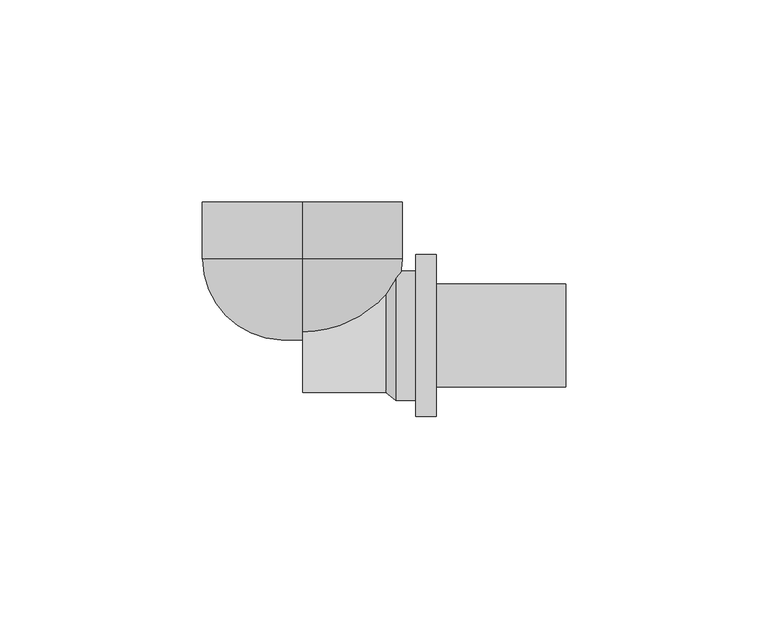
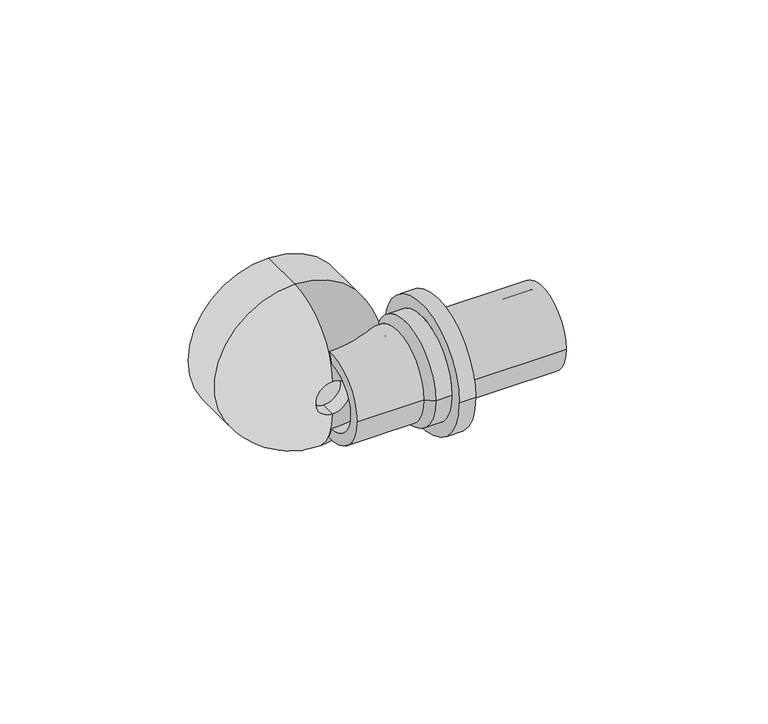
"""IFC4 building model written with IfcOpenShell, lengths in millimetres: pipe fitting geometry, REHAU_RAUTITAN_T-piece RX+, outlet with internal thread : REHAU_RAUTITAN_T-piece RX+, outlet with internal thread."""

from ifc_helpers import new_model, si_unit, point, frame, origin, place, context, project, spatial, polyline, circle_curve, ellipse_curve, trimmed, source, transform, mapped, element, save
from ifc_brep_helpers import plane_surface, cylinder_surface, revolved_surface, advanced_brep


def pipe_fitting_447a7474(model_context):
    return source(origin(), model_context, "Body", "AdvancedBrep", [
        advanced_brep(
        [(0.0, -1.0587443, 5.275), (0.0, -1.0587443, -5.275), (0.0, 18.92, -24.76), (0.0, 18.92, 24.76), (0.0, 3.7182205, 5.275), (0.0, 3.7182205, -5.275), (0.0, 18.92, 19.985), (0.0, 18.92, -19.985), (0.0, 33.0, 19.985), (0.0, 33.0, -19.985), (0.0, 33.0, -24.76), (0.0, 33.0, 24.76)],
        [
            (0, 1, circle_curve(frame((0.0, -1.0587443, 0.0), z_axis=(0.0, 1.0, 0.0), x_axis=(0.0, 0.0, -1.0)), 5.275)),
            (1, 2, circle_curve(frame((0.0, 18.92, -4.775), z_axis=(1.0, 0.0, 0.0), x_axis=(0.0, 1.0, 0.0)), 19.985)),
            (2, 3, circle_curve(frame((0.0, 18.92, 0.0), z_axis=(0.0, -1.0, 0.0), x_axis=(0.0, 0.0, -1.0)), 24.76)),
            (3, 0, circle_curve(frame((0.0, 18.92, 4.775), z_axis=(1.0, 0.0, 0.0), x_axis=(0.0, 1.0, 0.0)), 19.985)),
            (4, 5, circle_curve(frame((0.0, 3.7182205, 0.0), z_axis=(0.0, 1.0, 0.0), x_axis=(0.0, 0.0, -1.0)), 5.275)),
            (5, 1),
            (0, 4),
            (6, 7, circle_curve(frame((0.0, 18.92, 0.0), z_axis=(0.0, 1.0, 0.0), x_axis=(0.0, 0.0, -1.0)), 19.985)),
            (7, 5, circle_curve(frame((0.0, 18.92, -4.775), z_axis=(-1.0, 0.0, 0.0), x_axis=(0.0, 1.0, 0.0)), 15.21)),
            (4, 6, circle_curve(frame((0.0, 18.92, 4.775), z_axis=(-1.0, 0.0, 0.0), x_axis=(0.0, 1.0, 0.0)), 15.21)),
            (8, 9, circle_curve(frame((0.0, 33.0, 0.0), z_axis=(0.0, 1.0, 0.0), x_axis=(0.0, 0.0, -1.0)), 19.985)),
            (9, 7),
            (6, 8),
            (2, 10),
            (10, 11, circle_curve(frame((0.0, 33.0, 0.0), z_axis=(0.0, -1.0, 0.0), x_axis=(0.0, 0.0, -1.0)), 24.76)),
            (11, 3),
            (1, 0, circle_curve(frame((0.0, -1.0587443, 0.0), z_axis=(0.0, 1.0, 0.0), x_axis=(0.0, 0.0, 1.0)), 5.275)),
            (3, 2, circle_curve(frame((0.0, 18.92, 0.0), z_axis=(0.0, -1.0, 0.0), x_axis=(0.0, 0.0, 1.0)), 24.76)),
            (5, 4, circle_curve(frame((0.0, 3.7182205, 0.0), z_axis=(0.0, 1.0, 0.0), x_axis=(0.0, 0.0, 1.0)), 5.275)),
            (7, 6, circle_curve(frame((0.0, 18.92, 0.0), z_axis=(0.0, 1.0, 0.0), x_axis=(0.0, 0.0, 1.0)), 19.985)),
            (9, 8, circle_curve(frame((0.0, 33.0, 0.0), z_axis=(0.0, 1.0, 0.0), x_axis=(0.0, 0.0, 1.0)), 19.985)),
            (10, 11, circle_curve(frame((0.0, 33.0, 0.0), z_axis=(0.0, 1.0, 0.0), x_axis=(0.0, 0.0, 1.0)), 24.76)),
        ],
        [
            revolved_surface(trimmed(ellipse_curve(frame((0.0, 18.92, -4.775), z_axis=(-1.0, 0.0, 0.0), x_axis=(0.0, 1.0, 0.0)), 19.985, 19.985), [point((0.0, 18.92, -24.76))], [point((0.0, -1.0587443, -5.275))], True, "CARTESIAN"), (0.0, 0.0, 0.0), (0.0, -1.0, 0.0)),
            revolved_surface(polyline([(0.0, -1.0587443, -5.275), (0.0, 3.7182205, -5.275)]), (0.0, 0.0, 0.0), (0.0, -1.0, 0.0)),
            revolved_surface(trimmed(ellipse_curve(frame((0.0, 18.92, -4.775), z_axis=(1.0, 0.0, 0.0), x_axis=(0.0, 1.0, 0.0)), 15.21, 15.21), [point((0.0, 3.7182205, -5.275))], [point((0.0, 18.92, -19.985))], True, "CARTESIAN"), (0.0, 0.0, 0.0), (0.0, -1.0, 0.0)),
            revolved_surface(polyline([(0.0, 18.92, -19.985), (0.0, 33.0, -19.985)]), (0.0, 0.0, 0.0), (0.0, -1.0, 0.0)),
            cylinder_surface(frame((0.0, 0.0, 0.0), z_axis=(0.0, -1.0, 0.0), x_axis=(0.0, 0.0, -1.0)), 24.76),
            revolved_surface(trimmed(ellipse_curve(frame((0.0, 18.92, 4.775), z_axis=(1.0, 0.0, 0.0), x_axis=(0.0, 1.0, 0.0)), 19.985, 19.985), [point((0.0, 18.92, 24.76))], [point((0.0, -1.0587443, 5.275))], True, "CARTESIAN"), (0.0, 0.0, 0.0), (0.0, -1.0, 0.0)),
            revolved_surface(polyline([(0.0, -1.0587443, 5.275), (0.0, 3.7182205, 5.275)]), (0.0, 0.0, 0.0), (0.0, -1.0, 0.0)),
            revolved_surface(trimmed(ellipse_curve(frame((0.0, 18.92, 4.775), z_axis=(-1.0, 0.0, 0.0), x_axis=(0.0, 1.0, 0.0)), 15.21, 15.21), [point((0.0, 3.7182205, 5.275))], [point((0.0, 18.92, 19.985))], True, "CARTESIAN"), (0.0, 0.0, 0.0), (0.0, -1.0, 0.0)),
            revolved_surface(polyline([(0.0, 18.92, 19.985), (0.0, 33.0, 19.985)]), (0.0, 0.0, 0.0), (0.0, -1.0, 0.0)),
            plane_surface(frame((0.0, 33.0, 0.0), z_axis=(0.0, 1.0, 0.0), x_axis=(0.0, 0.0, 1.0))),
            cylinder_surface(frame((0.0, 0.0, 0.0), z_axis=(0.0, -1.0, 0.0), x_axis=(0.0, 0.0, 1.0)), 24.76),
        ],
        [
            (0, [[1, 2, 3, 4]]),
            (1, [[5, 6, -1, 7]]),
            (2, [[8, 9, -5, 10]]),
            (3, [[11, 12, -8, 13]]),
            (4, [[-3, 14, 15, 16]]),
            (5, [[17, -4, 18, -2]]),
            (6, [[19, -7, -17, -6]]),
            (7, [[20, -10, -19, -9]]),
            (8, [[21, -13, -20, -12]]),
            (9, [[22, -15], [-21, -11]]),
            (10, [[-18, -16, -22, -14]]),
        ],
    ),
        advanced_brep(
        [(23.0, 10.0, 0.0), (23.0, -10.0, 0.0), (65.0, -10.0, 0.0), (65.0, 10.0, 0.0), (20.5, 10.5, 0.0), (20.5, -10.5, 0.0), (0.0, 10.5, 0.0), (0.0, -10.5, 0.0), (20.5, 14.005, 0.0), (20.5, -14.005, 0.0), (0.0, -14.005, 0.0), (0.0, 14.005, 0.0), (23.0, 16.0, 0.0), (23.0, -16.0, 0.0), (28.0, 16.0, 0.0), (28.0, -16.0, 0.0), (33.0, 20.0, 0.0), (33.0, -20.0, 0.0), (28.0, -20.0, 0.0), (28.0, 20.0, 0.0), (65.0, 12.725, 0.0), (65.0, -12.725, 0.0), (33.0, -12.725, 0.0), (33.0, 12.725, 0.0)],
        [
            (0, 1, circle_curve(frame((23.0, 0.0, 0.0), z_axis=(-1.0, 0.0, 0.0), x_axis=(0.0, -1.0, 0.0)), 10.0)),
            (1, 2),
            (2, 3, circle_curve(frame((65.0, 0.0, 0.0), z_axis=(1.0, 0.0, 0.0), x_axis=(0.0, -1.0, 0.0)), 10.0)),
            (3, 0),
            (4, 5, circle_curve(frame((20.5, 0.0, 0.0), z_axis=(-1.0, 0.0, 0.0), x_axis=(0.0, -1.0, 0.0)), 10.5)),
            (5, 1),
            (0, 4),
            (6, 7, circle_curve(frame((0.0, 0.0, 0.0), z_axis=(-1.0, 0.0, 0.0), x_axis=(0.0, -1.0, 0.0)), 10.5)),
            (7, 5),
            (4, 6),
            (8, 9, circle_curve(frame((20.5, 0.0, 0.0), z_axis=(-1.0, 0.0, 0.0), x_axis=(0.0, -1.0, 0.0)), 14.005)),
            (9, 10),
            (10, 11, circle_curve(frame((0.0, 0.0, 0.0), z_axis=(1.0, 0.0, 0.0), x_axis=(0.0, -1.0, 0.0)), 14.005)),
            (11, 8),
            (12, 13, circle_curve(frame((23.0, 0.0, 0.0), z_axis=(-1.0, 0.0, 0.0), x_axis=(0.0, -1.0, 0.0)), 16.0)),
            (13, 9),
            (8, 12),
            (14, 15, circle_curve(frame((28.0, 0.0, 0.0), z_axis=(-1.0, 0.0, 0.0), x_axis=(0.0, -1.0, 0.0)), 16.0)),
            (15, 13),
            (12, 14),
            (16, 17, circle_curve(frame((33.0, 0.0, 0.0), z_axis=(-1.0, 0.0, 0.0), x_axis=(0.0, -1.0, 0.0)), 20.0)),
            (17, 18),
            (18, 19, circle_curve(frame((28.0, 0.0, 0.0), z_axis=(1.0, 0.0, 0.0), x_axis=(0.0, -1.0, 0.0)), 20.0)),
            (19, 16),
            (20, 21, circle_curve(frame((65.0, 0.0, 0.0), z_axis=(-1.0, 0.0, 0.0), x_axis=(0.0, -1.0, 0.0)), 12.725)),
            (21, 22),
            (22, 23, circle_curve(frame((33.0, 0.0, 0.0), z_axis=(1.0, 0.0, 0.0), x_axis=(0.0, -1.0, 0.0)), 12.725)),
            (23, 20),
            (20, 21, circle_curve(frame((65.0, 0.0, 0.0), z_axis=(1.0, 0.0, 0.0), x_axis=(0.0, 1.0, 0.0)), 12.725)),
            (2, 3, circle_curve(frame((65.0, 0.0, 0.0), z_axis=(-1.0, 0.0, 0.0), x_axis=(0.0, 1.0, 0.0)), 10.0)),
            (1, 0, circle_curve(frame((23.0, 0.0, 0.0), z_axis=(-1.0, 0.0, 0.0), x_axis=(0.0, 1.0, 0.0)), 10.0)),
            (5, 4, circle_curve(frame((20.5, 0.0, 0.0), z_axis=(-1.0, 0.0, 0.0), x_axis=(0.0, 1.0, 0.0)), 10.5)),
            (7, 6, circle_curve(frame((0.0, 0.0, 0.0), z_axis=(-1.0, 0.0, 0.0), x_axis=(0.0, 1.0, 0.0)), 10.5)),
            (10, 11, circle_curve(frame((0.0, 0.0, 0.0), z_axis=(-1.0, 0.0, 0.0), x_axis=(0.0, 1.0, 0.0)), 14.005)),
            (9, 8, circle_curve(frame((20.5, 0.0, 0.0), z_axis=(-1.0, 0.0, 0.0), x_axis=(0.0, 1.0, 0.0)), 14.005)),
            (13, 12, circle_curve(frame((23.0, 0.0, 0.0), z_axis=(-1.0, 0.0, 0.0), x_axis=(0.0, 1.0, 0.0)), 16.0)),
            (15, 14, circle_curve(frame((28.0, 0.0, 0.0), z_axis=(-1.0, 0.0, 0.0), x_axis=(0.0, 1.0, 0.0)), 16.0)),
            (18, 19, circle_curve(frame((28.0, 0.0, 0.0), z_axis=(-1.0, 0.0, 0.0), x_axis=(0.0, 1.0, 0.0)), 20.0)),
            (17, 16, circle_curve(frame((33.0, 0.0, 0.0), z_axis=(-1.0, 0.0, 0.0), x_axis=(0.0, 1.0, 0.0)), 20.0)),
            (22, 23, circle_curve(frame((33.0, 0.0, 0.0), z_axis=(-1.0, 0.0, 0.0), x_axis=(0.0, 1.0, 0.0)), 12.725)),
        ],
        [
            revolved_surface(polyline([(65.0, -10.0, 0.0), (23.0, -10.0, 0.0)]), (0.0, 0.0, 0.0), (1.0, 0.0, 0.0)),
            revolved_surface(polyline([(23.0, -10.0, 0.0), (20.5, -10.5, 0.0)]), (0.0, 0.0, 0.0), (1.0, 0.0, 0.0)),
            revolved_surface(polyline([(20.5, -10.5, 0.0), (0.0, -10.5, 0.0)]), (0.0, 0.0, 0.0), (1.0, 0.0, 0.0)),
            cylinder_surface(frame((0.0, 0.0, 0.0), z_axis=(1.0, 0.0, 0.0), x_axis=(0.0, -1.0, 0.0)), 14.005),
            revolved_surface(polyline([(20.5, -14.005, 0.0), (23.0, -16.0, 0.0)]), (0.0, 0.0, 0.0), (1.0, 0.0, 0.0)),
            cylinder_surface(frame((0.0, 0.0, 0.0), z_axis=(1.0, 0.0, 0.0), x_axis=(0.0, -1.0, 0.0)), 16.0),
            cylinder_surface(frame((0.0, 0.0, 0.0), z_axis=(1.0, 0.0, 0.0), x_axis=(0.0, -1.0, 0.0)), 20.0),
            cylinder_surface(frame((0.0, 0.0, 0.0), z_axis=(1.0, 0.0, 0.0), x_axis=(0.0, -1.0, 0.0)), 12.725),
            plane_surface(frame((65.0, 0.0, 0.0), z_axis=(1.0, 0.0, 0.0), x_axis=(0.0, 1.0, 0.0))),
            revolved_surface(polyline([(65.0, 10.0, 0.0), (23.0, 10.0, 0.0)]), (0.0, 0.0, 0.0), (1.0, 0.0, 0.0)),
            revolved_surface(polyline([(23.0, 10.0, 0.0), (20.5, 10.5, 0.0)]), (0.0, 0.0, 0.0), (1.0, 0.0, 0.0)),
            revolved_surface(polyline([(20.5, 10.5, 0.0), (0.0, 10.5, 0.0)]), (0.0, 0.0, 0.0), (1.0, 0.0, 0.0)),
            plane_surface(frame((0.0, 0.0, 0.0), z_axis=(-1.0, 0.0, 0.0), x_axis=(0.0, 1.0, 0.0))),
            cylinder_surface(frame((0.0, 0.0, 0.0), z_axis=(1.0, 0.0, 0.0), x_axis=(0.0, 1.0, 0.0)), 14.005),
            revolved_surface(polyline([(20.5, 14.005, 0.0), (23.0, 16.0, 0.0)]), (0.0, 0.0, 0.0), (1.0, 0.0, 0.0)),
            cylinder_surface(frame((0.0, 0.0, 0.0), z_axis=(1.0, 0.0, 0.0), x_axis=(0.0, 1.0, 0.0)), 16.0),
            plane_surface(frame((28.0, 0.0, 0.0), z_axis=(-1.0, 0.0, 0.0), x_axis=(0.0, 1.0, 0.0))),
            cylinder_surface(frame((0.0, 0.0, 0.0), z_axis=(1.0, 0.0, 0.0), x_axis=(0.0, 1.0, 0.0)), 20.0),
            plane_surface(frame((33.0, 0.0, 0.0), z_axis=(1.0, 0.0, 0.0), x_axis=(0.0, 1.0, 0.0))),
            cylinder_surface(frame((0.0, 0.0, 0.0), z_axis=(1.0, 0.0, 0.0), x_axis=(0.0, 1.0, 0.0)), 12.725),
        ],
        [
            (0, [[1, 2, 3, 4]]),
            (1, [[5, 6, -1, 7]]),
            (2, [[8, 9, -5, 10]]),
            (3, [[11, 12, 13, 14]]),
            (4, [[15, 16, -11, 17]]),
            (5, [[18, 19, -15, 20]]),
            (6, [[21, 22, 23, 24]]),
            (7, [[25, 26, 27, 28]]),
            (8, [[29, -25], [30, -3]]),
            (9, [[31, -4, -30, -2]]),
            (10, [[32, -7, -31, -6]]),
            (11, [[33, -10, -32, -9]]),
            (12, [[34, -13], [-33, -8]]),
            (13, [[35, -14, -34, -12]]),
            (14, [[36, -17, -35, -16]]),
            (15, [[37, -20, -36, -19]]),
            (16, [[38, -23], [-37, -18]]),
            (17, [[39, -24, -38, -22]]),
            (18, [[-39, -21], [40, -27]]),
            (19, [[-29, -28, -40, -26]]),
        ],
    ),
    ])


if __name__ == "__main__":
    model = new_model("IFC4")
    model_context = context("Model", 3, world=origin())
    ifc_project = project(units=[si_unit("LENGTHUNIT", "METRE", prefix="MILLI")], contexts=[model_context])
    site = spatial("IfcSite", under=ifc_project)
    building = spatial("IfcBuilding", under=site)
    placement = place(None, origin())
    pipe_fitting_shape = pipe_fitting_447a7474(model_context)
    element("IfcPipeFitting", 1, ObjectType="REHAU_RAUTITAN_T-piece RX+, outlet with internal thread : REHAU_RAUTITAN_T-piece RX+, outlet with internal thread", at=placement, inside=building, context=model_context, shape_type="MappedRepresentation", body=[
        mapped(pipe_fitting_shape, transform((0.0, 0.0, 0.0), x_axis=(1.0, 0.0, 0.0), y_axis=(0.0, 1.0, 0.0), z_axis=(0.0, 0.0, 1.0))),
    ])
    save(model, "model.ifc")
